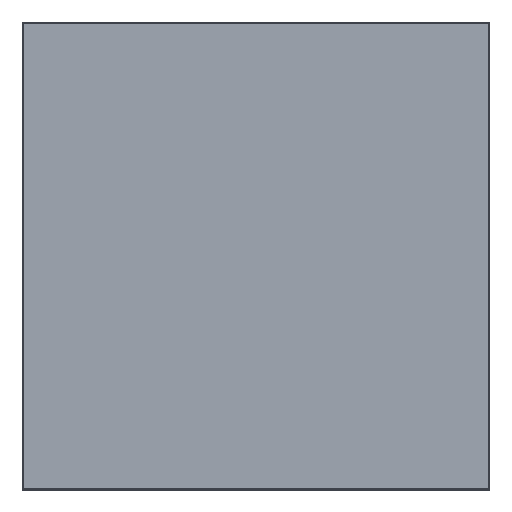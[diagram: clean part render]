
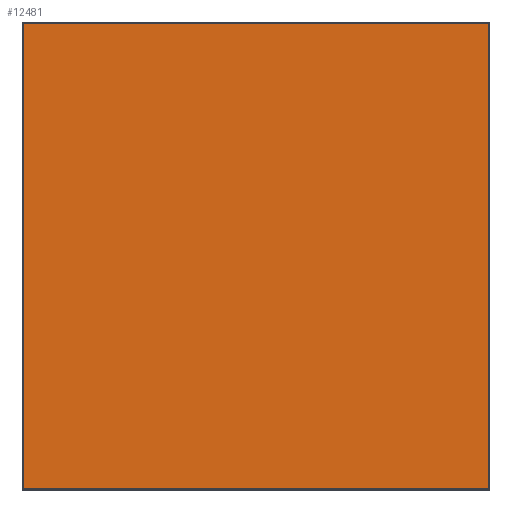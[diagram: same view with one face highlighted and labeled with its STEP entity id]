
A CAD part, top view. The second image highlights one B-rep face of the part: STEP entity #12481.
In plain terms, the highlighted planar face has unit normal (0, 0, 1).
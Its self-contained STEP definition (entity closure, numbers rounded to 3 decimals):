
#12442=CARTESIAN_POINT('',(0.,0.,20.));
#12443=DIRECTION('',(1.,0.,0.));
#12444=DIRECTION('',(0.,0.,1.));
#12445=AXIS2_PLACEMENT_3D('',#12442,#12444,#12443);
#12446=PLANE('',#12445);
#12447=CARTESIAN_POINT('',(348.5,-348.5,20.));
#12448=VERTEX_POINT('',#12447);
#12449=CARTESIAN_POINT('',(348.5,348.5,20.));
#12450=VERTEX_POINT('',#12449);
#12451=CARTESIAN_POINT('',(348.5,-348.5,20.));
#12452=DIRECTION('',(0.,1.,0.));
#12453=VECTOR('',#12452,697.);
#12454=LINE('',#12451,#12453);
#12455=EDGE_CURVE('',#12448,#12450,#12454,.T.);
#12456=ORIENTED_EDGE('E117',*,*,#12455,.T.);
#12457=CARTESIAN_POINT('',(-348.5,348.5,20.));
#12458=VERTEX_POINT('',#12457);
#12459=CARTESIAN_POINT('',(348.5,348.5,20.));
#12460=DIRECTION('',(-1.,0.,0.));
#12461=VECTOR('',#12460,697.);
#12462=LINE('',#12459,#12461);
#12463=EDGE_CURVE('',#12450,#12458,#12462,.T.);
#12464=ORIENTED_EDGE('E118',*,*,#12463,.T.);
#12465=CARTESIAN_POINT('',(-348.5,-348.5,20.));
#12466=VERTEX_POINT('',#12465);
#12467=CARTESIAN_POINT('',(-348.5,348.5,20.));
#12468=DIRECTION('',(0.,-1.,0.));
#12469=VECTOR('',#12468,697.);
#12470=LINE('',#12467,#12469);
#12471=EDGE_CURVE('',#12458,#12466,#12470,.T.);
#12472=ORIENTED_EDGE('E120',*,*,#12471,.T.);
#12473=CARTESIAN_POINT('',(-348.5,-348.5,20.));
#12474=DIRECTION('',(1.,0.,0.));
#12475=VECTOR('',#12474,697.);
#12476=LINE('',#12473,#12475);
#12477=EDGE_CURVE('',#12466,#12448,#12476,.T.);
#12478=ORIENTED_EDGE('E116',*,*,#12477,.T.);
#12479=EDGE_LOOP('',(#12456,#12464,#12472,#12478));
#12480=FACE_OUTER_BOUND('',#12479,.T.);
#12481=ADVANCED_FACE('F2',(#12480),#12446,.T.);
